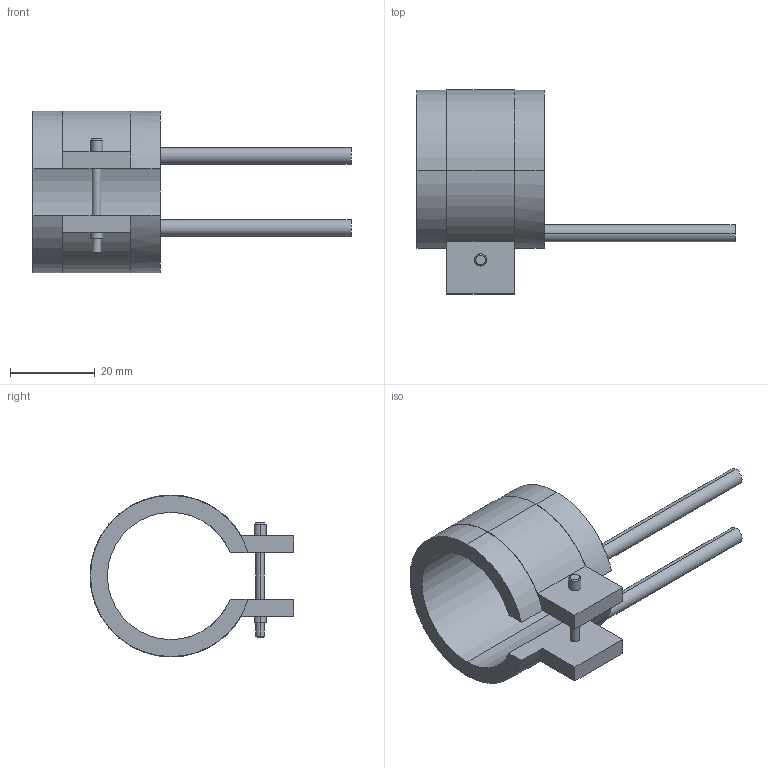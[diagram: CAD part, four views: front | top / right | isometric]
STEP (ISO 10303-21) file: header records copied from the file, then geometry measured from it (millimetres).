
FILE_DESCRIPTION(('CATIA V5 STEP Exchange'),'2;1');
FILE_NAME('C:\Users\Utente\Desktop\IO LAVORO\3D X SITO CF\X SITO\PLASTICA\RF2\14030030.stp','2021-03-31T11:41:02+00:00',('none'),('none'),'CATIA Version 5 Release 20 GA (IN-10)','CATIA V5 STEP AP203','none');
FILE_SCHEMA(('CONFIG_CONTROL_DESIGN'));
Length unit declared in the file: millimetre
Products named in the file (1): 14030030
Bounding box: 75 x 48.1 x 38.2 mm (x, y, z)
Volume: 14320.9 mm3; surface area: 8955.8 mm2
Topology: 1 solids, 1 shells, 45 faces, 116 edges, 76 vertices
Faces by surface type: cylinder 24, plane 17, cone 4
Entity records: 1412 total; most frequent: CARTESIAN_POINT 288, ORIENTED_EDGE 232, DIRECTION 195, EDGE_CURVE 116, AXIS2_PLACEMENT_3D 103, VERTEX_POINT 76, CIRCLE 61, VECTOR 52
